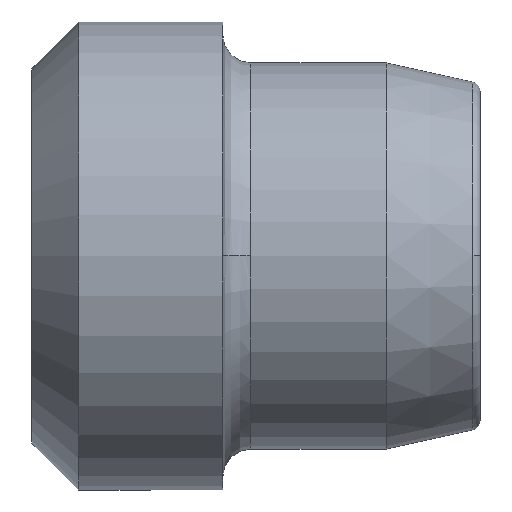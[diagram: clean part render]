
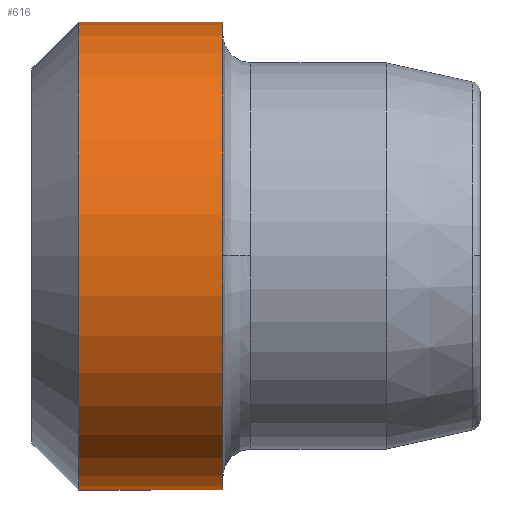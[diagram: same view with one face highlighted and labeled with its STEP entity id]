
A CAD part, top view. The second image highlights one B-rep face of the part: STEP entity #616.
In plain terms, the highlighted cylindrical face has radius 5 mm (diameter 10 mm), a partial arc.
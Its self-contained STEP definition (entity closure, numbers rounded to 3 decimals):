
#575=CARTESIAN_POINT('',(-2.787,1.467,0.0));
#576=DIRECTION('',(1.0,0.0,0.0));
#577=DIRECTION('',(0.0,1.0,0.0));
#578=AXIS2_PLACEMENT_3D('',#575,#576,#577);
#579=CYLINDRICAL_SURFACE('',#578,5.);
#580=CARTESIAN_POINT('',(-3.825,6.467,0.0));
#581=VERTEX_POINT('',#580);
#582=CARTESIAN_POINT('',(-0.75,6.467,0.0));
#583=VERTEX_POINT('',#582);
#584=CARTESIAN_POINT('',(-3.825,6.467,0.0));
#585=DIRECTION('',(1.0,0.0,0.0));
#586=VECTOR('',#585,3.075);
#587=LINE('',#584,#586);
#588=EDGE_CURVE('',#581,#583,#587,.T.);
#589=ORIENTED_EDGE('',*,*,#588,.F.);
#590=CARTESIAN_POINT('',(-3.825,-3.533,0.));
#591=VERTEX_POINT('',#590);
#592=CARTESIAN_POINT('',(-3.825,1.467,0.0));
#593=DIRECTION('',(-1.0,0.0,0.0));
#594=DIRECTION('',(0.0,-1.0,0.0));
#595=AXIS2_PLACEMENT_3D('',#592,#593,#594);
#596=CIRCLE('',#595,5.);
#597=EDGE_CURVE('',#591,#581,#596,.T.);
#598=ORIENTED_EDGE('',*,*,#597,.F.);
#599=CARTESIAN_POINT('',(-0.75,-3.533,0.));
#600=VERTEX_POINT('',#599);
#601=CARTESIAN_POINT('',(-0.75,-3.533,0.));
#602=DIRECTION('',(-1.0,0.0,0.0));
#603=VECTOR('',#602,3.075);
#604=LINE('',#601,#603);
#605=EDGE_CURVE('',#600,#591,#604,.T.);
#606=ORIENTED_EDGE('',*,*,#605,.F.);
#607=CARTESIAN_POINT('',(-0.75,1.467,0.0));
#608=DIRECTION('',(1.0,0.0,0.0));
#609=DIRECTION('',(0.0,1.0,0.0));
#610=AXIS2_PLACEMENT_3D('',#607,#608,#609);
#611=CIRCLE('',#610,5.0);
#612=EDGE_CURVE('',#583,#600,#611,.T.);
#613=ORIENTED_EDGE('',*,*,#612,.F.);
#614=EDGE_LOOP('',(#589,#598,#606,#613));
#615=FACE_OUTER_BOUND('',#614,.T.);
#616=ADVANCED_FACE('',(#615),#579,.T.);
